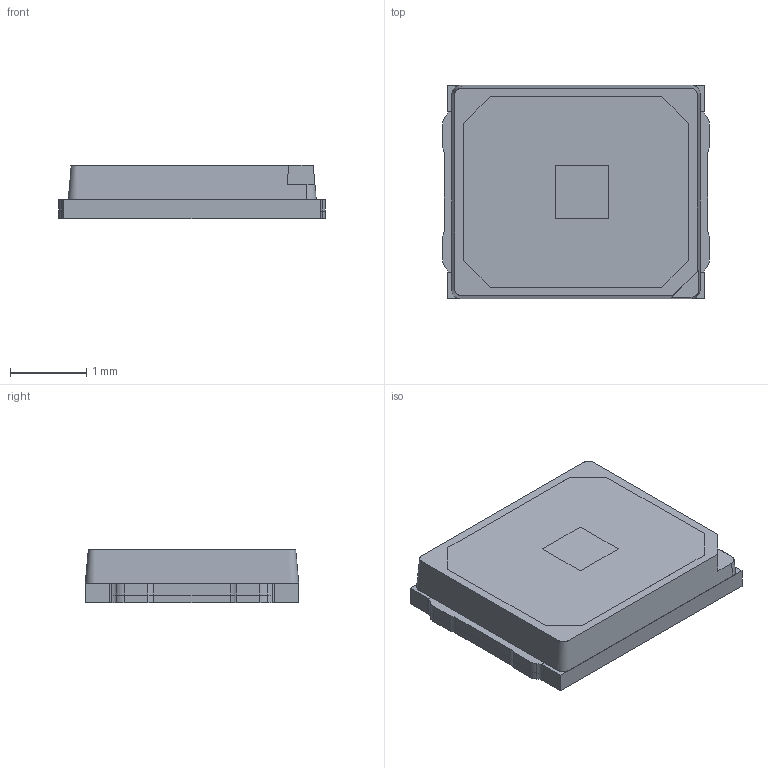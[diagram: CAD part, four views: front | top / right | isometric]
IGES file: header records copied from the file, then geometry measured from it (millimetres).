
Start section: SolidWorks IGES file using analytic representation for surfaces
Global section: file name: C:\Users\user\Desktop\XYY\1-车灯产品3D图汇总\2835\模型\LWH-02-光学模型\LWH-02.IGS; native system: SolidWorks 2022; preprocessor: SolidWorks 2022; author: user; date: 250418.115229; units: millimetre
Bounding box: 3.5 x 2.8 x 0.7 mm (x, y, z)
Surface area: 64 mm2 (no closed solid volume)
Topology: 0 solids, 0 shells, 250 faces, 2394 edges, 3101 vertices
Faces by surface type: bspline 142, revolution 108
